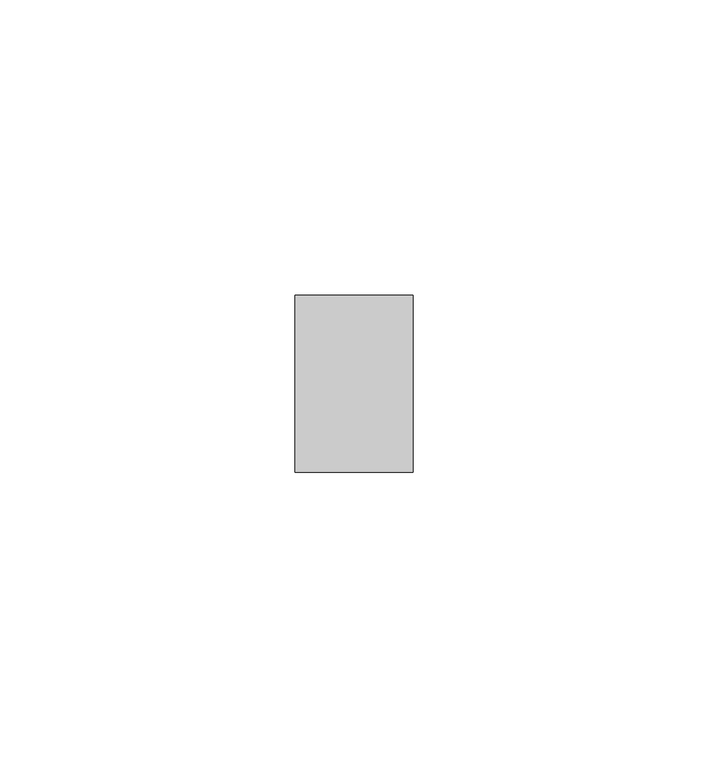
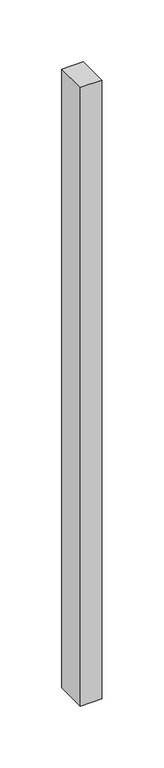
"""IFC4 building model written with IfcOpenShell, lengths in millimetres: member geometry, Прямоугольный импост : Квадрат 10 мм - Зазор между навесными плитами."""

from ifc_helpers import new_model, si_unit, frame, origin, place, context, project, spatial, polyline, outline, extrude, source, transform, mapped, element, save


def member_cafd68cf(model_context):
    return source(origin(), model_context, "Body", "SweptSolid", [
        extrude(outline(polyline([(10.0, 15.0), (10.0, -15.0), (-10.0, -15.0), (-10.0, 15.0), (10.0, 15.0)])), frame((0.0, 0.0, -610.0), z_axis=(0.0, 0.0, 1.0), x_axis=(1.0, 0.0, 0.0)), (0.0, 0.0, 1.0), 610.0),
    ])


if __name__ == "__main__":
    model = new_model("IFC4")
    model_context = context("Model", 3, world=origin())
    ifc_project = project(units=[si_unit("LENGTHUNIT", "METRE", prefix="MILLI")], contexts=[model_context])
    site = spatial("IfcSite", under=ifc_project)
    building = spatial("IfcBuilding", under=site)
    placement = place(None, origin())
    member_shape = member_cafd68cf(model_context)
    element("IfcMember", 1, ObjectType="Прямоугольный импост : Квадрат 10 мм - Зазор между навесными плитами", at=placement, inside=building, context=model_context, shape_type="MappedRepresentation", body=[
        mapped(member_shape, transform((0.0, 0.0, 0.0), x_axis=(1.0, 0.0, 0.0), y_axis=(0.0, 1.0, 0.0), z_axis=(0.0, 0.0, 1.0))),
    ])
    save(model, "model.ifc")
